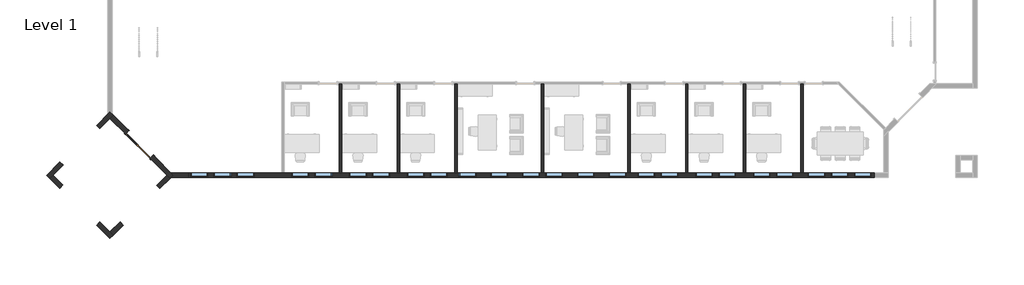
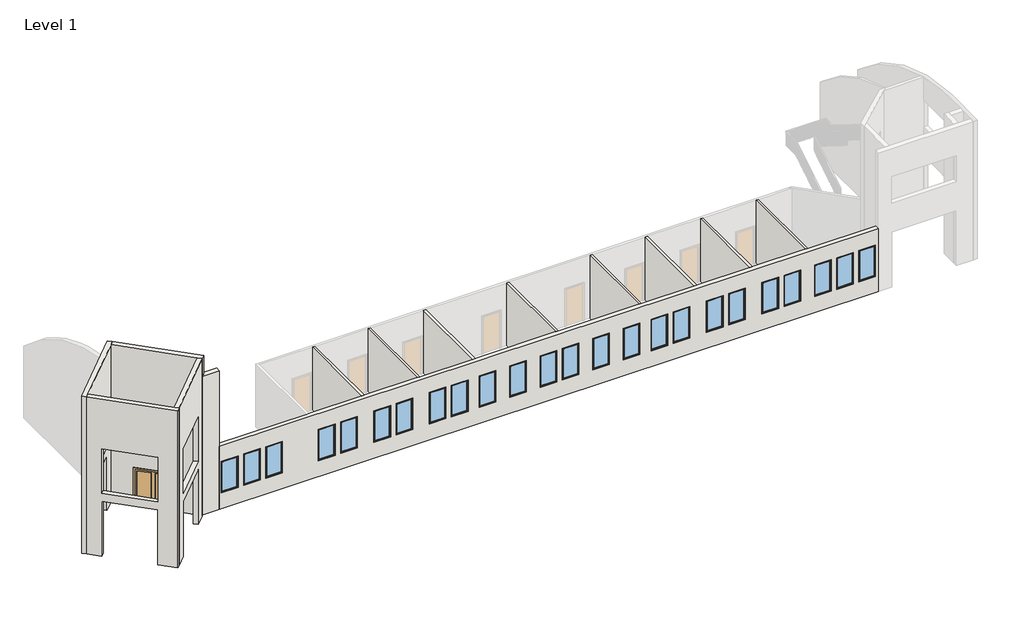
# One storey, part 1 of 4: 24 windows, 14 walls, 1 door.
"""IFC4 building model written with IfcOpenShell, lengths in millimetres."""

from ifc_helpers import new_model, si_unit, frame, origin, origin_with_axes, place, context, project, spatial, polyline, circle_curve, ellipse_curve, outline, extrude, faceted_brep, transform, mapped, element, save
from ifc_brep_helpers import plane_surface, cylinder_surface, advanced_brep
from components import door_a1a3006e, window_01d578b7

model = new_model("IFC4")

# Units and contexts
model_context = context("Model", 3, world=origin())
ifc_project = project(units=[si_unit("LENGTHUNIT", "METRE", prefix="MILLI")], contexts=[model_context])

# Site, building, storey
site = spatial("IfcSite", under=ifc_project)
building = spatial("IfcBuilding", under=site)
storey = spatial("IfcBuildingStorey", under=building, Name="Level 1", Elevation=0.0)

# Door
placement = place(None, origin())
door_shape = door_a1a3006e(model_context)
element("IfcDoor", 1, ObjectType="Double-Glass 1 : 72\" x 84\"", at=placement, inside=storey, context=model_context, shape_type="MappedRepresentation", body=[
    mapped(door_shape, transform((-10557.1119377, -829.2226028, 0.0), x_axis=(-0.707106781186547, 0.7071067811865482, 0.0), y_axis=(-0.7071067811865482, -0.707106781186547, 0.0), z_axis=(0.0, 0.0, 1.0))),
])

# Walls
element("IfcWall", 2, ObjectType="Exterior - EIFS on Mtl. Stud", at=placement, inside=storey, context=model_context, shape_type="Brep", body=[
    faceted_brep([(-15296.2210574, -2622.1272791, 0.0), (-15125.5961911, -2451.5024128, 0.0), (-14589.0258879, -1914.9321096, 0.0), (-14589.0258879, -1914.9321096, 3200.4), (-12653.7806938, 20.3130845, 3200.4), (-12653.7806938, 20.3130845, 0.0), (-12117.2103906, 556.8833877, 0.0), (-11946.5855243, 727.508254, 0.0), (-11946.5855243, 727.508254, 9144.0), (-12117.2103906, 556.8833877, 9144.0), (-15125.5961911, -2451.5024128, 9144.0), (-15296.2210574, -2622.1272791, 9144.0), (-12653.7806938, 20.3130845, 3657.6), (-14589.0258879, -1914.9321096, 3657.6), (-14589.0258879, -1914.9321096, 6248.4), (-12653.7806938, 20.3130845, 6248.4), (-15466.8459237, -2451.5024128, 0.0), (-15466.8459237, -2451.5024128, 9144.0), (-12117.2103906, 898.1331203, 9144.0), (-12117.2103906, 898.1331203, 7990.3191324), (-12117.2103906, 898.1331203, 0.0), (-12237.8603906, 777.4831203, 0.0), (-12824.4055601, 190.9379508, 0.0), (-12824.4055601, 190.9379508, 3200.4), (-14759.6507542, -1744.3072433, 3200.4), (-14759.6507542, -1744.3072433, 0.0), (-12824.4055601, 190.9379508, 3657.6), (-12824.4055601, 190.9379508, 6248.4), (-14759.6507542, -1744.3072433, 6248.4), (-14759.6507542, -1744.3072433, 3657.6), (-11996.5603906, 777.4831203, 0.0)], [[[0, 1, 2, 3, 4, 5, 6, 7, 8, 9, 10, 11], [12, 13, 14, 15]], [[16, 17, 18, 19, 20, 21, 22, 23, 24, 25], [26, 27, 28, 29]], [[2, 1, 0, 16, 25]], [[3, 2, 25, 24]], [[4, 3, 24, 23]], [[5, 4, 23, 22]], [[7, 6, 5, 22, 21, 20, 30]], [[11, 10, 9, 8, 18, 17]], [[13, 12, 26, 29]], [[14, 13, 29, 28]], [[15, 14, 28, 27]], [[12, 15, 27, 26]], [[7, 30, 20, 19, 18, 8]], [[0, 11, 17, 16]]]),
])
element("IfcWall", 3, ObjectType="Exterior - EIFS on Mtl. Stud", at=placement, inside=storey, context=model_context, shape_type="Brep", body=[
    faceted_brep([(-12117.2103906, 556.8833877, 0.0), (-11290.6866096, -269.6403933, 0.0), (-11290.6866096, -269.6403933, 2133.6), (-9997.5297281, -1562.7972747, 2133.6), (-9997.5297281, -1562.7972747, 0.0), (-9108.82459, -2451.5024128, 0.0), (-8938.1997237, -2622.1272791, 0.0), (-8938.1997237, -2622.1272791, 9144.0), (-9108.82459, -2451.5024128, 9144.0), (-12117.2103906, 556.8833877, 9144.0), (-11120.0617433, -99.015527, 2133.6), (-11120.0617433, -99.015527, 0.0), (-11946.5855243, 727.508254, 0.0), (-11946.5855243, 727.508254, 9144.0), (-8767.5748574, -2451.5024128, 9144.0), (-8767.5748574, -2451.5024128, 8054.7114462), (-8767.5748574, -2451.5024128, 0.0), (-8888.2248574, -2330.8524128, 0.0), (-9826.9048618, -1392.1724084, 0.0), (-9826.9048618, -1392.1724084, 2133.6), (-8888.2248574, -2572.1524128, 0.0)], [[[0, 1, 2, 3, 4, 5, 6, 7, 8, 9]], [[10, 11, 12, 13, 14, 15, 16, 17, 18, 19]], [[12, 11, 1, 0]], [[18, 17, 16, 20, 6, 5, 4]], [[9, 8, 7, 14, 13]], [[7, 6, 20, 16, 15, 14]], [[9, 13, 12, 0]], [[2, 1, 11, 10]], [[3, 2, 10, 19]], [[4, 3, 19, 18]]]),
])
element("IfcWall", 4, ObjectType="Exterior - EIFS on Mtl. Stud", at=placement, inside=storey, context=model_context, shape_type="Brep", body=[
    faceted_brep([(-11946.5855243, -5630.5130797, 0.0), (-12117.2103906, -5459.8882134, 0.0), (-12653.7806938, -4923.3179102, 0.0), (-12653.7806938, -4923.3179102, 3200.4), (-14598.0022531, -2979.0963509, 3200.4), (-14598.0022531, -2979.0963509, 0.0), (-15125.5961911, -2451.5024128, 0.0), (-15125.5961911, -2451.5024128, 9144.0), (-12117.2103906, -5459.8882134, 9144.0), (-11946.5855243, -5630.5130797, 9144.0), (-14598.0022531, -2979.0963509, 3657.6), (-12653.7806938, -4923.3179102, 3657.6), (-12653.7806938, -4923.3179102, 6248.4), (-14598.0022531, -2979.0963509, 6248.4), (-12117.2103906, -5801.137946, 0.0), (-12117.2103906, -5801.137946, 9144.0), (-15296.2210574, -2622.1272791, 9144.0), (-15296.2210574, -2622.1272791, 0.0), (-14768.6271194, -3149.7212172, 0.0), (-14768.6271194, -3149.7212172, 3200.4), (-12824.4055601, -5093.9427765, 3200.4), (-12824.4055601, -5093.9427765, 0.0), (-14768.6271194, -3149.7212172, 3657.6), (-14768.6271194, -3149.7212172, 6248.4), (-12824.4055601, -5093.9427765, 6248.4), (-12824.4055601, -5093.9427765, 3657.6)], [[[0, 1, 2, 3, 4, 5, 6, 7, 8, 9], [10, 11, 12, 13]], [[14, 15, 16, 17, 18, 19, 20, 21], [22, 23, 24, 25]], [[2, 1, 0, 14, 21]], [[3, 2, 21, 20]], [[4, 3, 20, 19]], [[5, 4, 19, 18]], [[6, 5, 18, 17]], [[9, 8, 7, 16, 15]], [[11, 10, 22, 25]], [[12, 11, 25, 24]], [[13, 12, 24, 23]], [[10, 13, 23, 22]], [[0, 9, 15, 14]], [[7, 6, 17, 16]]]),
])
element("IfcWall", 5, ObjectType="Exterior - EIFS on Mtl. Stud", at=placement, inside=storey, context=model_context, shape_type="SweptSolid", body=[
    extrude(outline(polyline([(120.6499999, 0.0), (879.475, 0.0), (879.475, -3200.4), (3616.325, -3200.4), (3616.325, 0.0), (4375.15, 0.0), (4375.15, -9144.0), (120.6499999, -9144.0), (120.6499999, 0.0)]), holes=[polyline([(3616.325, -3657.6), (879.475, -3657.6), (879.475, -6248.4), (3616.325, -6248.4), (3616.325, -3657.6)])]), frame((-12031.8979574, -5715.8255128, 0.0), z_axis=(-0.7071067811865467, 0.7071067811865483, 0.0), x_axis=(0.7071067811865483, 0.7071067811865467, 0.0)), (0.0, 0.0, 1.0), 241.3),
])
element("IfcWall", 6, ObjectType="Exterior - EIFS on Mtl. Stud", at=placement, inside=storey, context=model_context, shape_type="AdvancedBrep", body=[
    advanced_brep(
    [(-8888.2248574, -2330.8524128, 8066.5094937), (-7974.408315, -2330.8524128, 8066.5094937), (-7974.408315, -2330.8524128, 7315.2), (-7974.408315, -2330.8524128, 3657.6), (-7974.408315, -2330.8524128, 0.0), (-8888.2248574, -2330.8524128, 0.0), (-8888.2248574, -2572.1524128, 8041.8474028), (-8888.2248574, -2572.1524128, 0.0), (-7974.408315, -2572.1524128, 0.0), (-7974.408315, -2572.1524128, 3657.6), (-7974.408315, -2572.1524128, 7315.2), (-7974.408315, -2572.1524128, 8041.8474028), (-8767.5748574, -2451.5024128, 0.0), (-8767.5748574, -2451.5024128, 8054.7114462)],
    [
        (0, 1),
        (1, 2),
        (2, 3),
        (3, 4),
        (4, 5),
        (5, 0),
        (6, 7),
        (7, 8),
        (8, 9),
        (9, 10),
        (10, 11),
        (11, 6),
        (4, 8),
        (7, 12),
        (12, 5),
        (1, 11, circle_curve(frame((-7974.408315, -1041.3166946, -5743.4275557), z_axis=(1.0, 0.0, 0.0), x_axis=(0.0, -1.0, 0.0)), 13870.0131102)),
        (12, 13),
        (13, 0, ellipse_curve(frame((-10177.7605757, -1041.3166946, -5743.4275557), z_axis=(-0.7071067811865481, -0.7071067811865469, 0.0), x_axis=(0.7071067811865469, -0.707106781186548, 0.0)), 19615.1606508, 13870.0131102)),
        (6, 13, ellipse_curve(frame((-7357.3891392, -1041.3166946, -5743.4275557), z_axis=(-0.7071067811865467, 0.7071067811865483, 0.0), x_axis=(0.7071067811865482, 0.7071067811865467, 0.0)), 19615.1606508, 13870.0131102)),
    ],
    [
        plane_surface(frame((-8938.1997237, -2330.8524128, 9144.0), z_axis=(0.0, 1.0, 0.0), x_axis=(1.0, 0.0, 0.0))),
        plane_surface(frame((-8938.1997237, -2572.1524128, 9144.0), z_axis=(0.0, -1.0, 0.0), x_axis=(-1.0, 0.0, 0.0))),
        plane_surface(frame((-7974.408315, -2330.8524128, 0.0), z_axis=(0.0, 0.0, -1.0), x_axis=(0.0, -1.0, 0.0))),
        plane_surface(frame((-7974.408315, -2330.8524128, 9144.0), z_axis=(1.0, 0.0, 0.0), x_axis=(0.0, -1.0, 0.0))),
        plane_surface(frame((-10399.7364074, -819.3408628, -457.2), z_axis=(-0.7071067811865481, -0.7071067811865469, 0.0), x_axis=(0.7071067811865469, -0.7071067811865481, 0.0))),
        plane_surface(frame((-10399.7364074, -4083.6639628, -457.2), z_axis=(-0.7071067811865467, 0.7071067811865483, 0.0), x_axis=(-0.7071067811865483, -0.7071067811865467, 0.0))),
        cylinder_surface(frame((34821.9896094, -1041.3166946, -5743.4275557), z_axis=(1.0, 0.0, 0.0), x_axis=(0.0, -1.0, 0.0)), 13870.0131102),
    ],
    [
        (0, [[1, 2, 3, 4, 5, 6]]),
        (1, [[7, 8, 9, 10, 11, 12]]),
        (2, [[-5, 13, -8, 14, 15]]),
        (3, [[16, -11, -10, -9, -13, -4, -3, -2]]),
        (4, [[-6, -15, 17, 18]]),
        (5, [[-14, -7, 19, -17]]),
        (6, [[-1, -18, -19, -12, -16]]),
    ],
),
])
element("IfcWall", 7, ObjectType="Exterior - EIFS on Mtl. Stud", at=placement, inside=storey, context=model_context, shape_type="Brep", body=[
    faceted_brep([(28268.7896094, -2330.8524128, 0.0), (24520.7021094, -2330.8524128, 0.0), (24396.8771094, -2330.8524128, 0.0), (21472.7021094, -2330.8524128, 0.0), (21348.8771094, -2330.8524128, 0.0), (18424.7021094, -2330.8524128, 0.0), (18300.8771094, -2330.8524128, 0.0), (15376.7021094, -2330.8524128, 0.0), (15252.8771094, -2330.8524128, 0.0), (10804.7021094, -2330.8524128, 0.0), (10680.8771094, -2330.8524128, 0.0), (6232.7021094, -2330.8524128, 0.0), (6108.8771094, -2330.8524128, 0.0), (3184.7021094, -2330.8524128, 0.0), (3060.8771094, -2330.8524128, 0.0), (136.7021094, -2330.8524128, 0.0), (12.8771094, -2330.8524128, 0.0), (-2911.2978906, -2330.8524128, 0.0), (-3035.1228906, -2330.8524128, 0.0), (-7974.408315, -2330.8524128, 0.0), (-7974.408315, -2330.8524128, 3657.6), (-3035.1228906, -2330.8524128, 3657.6), (-2911.2978906, -2330.8524128, 3657.6), (12.8771094, -2330.8524128, 3657.6), (136.7021094, -2330.8524128, 3657.6), (3060.8771094, -2330.8524128, 3657.6), (3184.7021094, -2330.8524128, 3657.6), (6108.8771094, -2330.8524128, 3657.6), (6232.7021094, -2330.8524128, 3657.6), (10680.8771094, -2330.8524128, 3657.6), (10804.7021094, -2330.8524128, 3657.6), (15252.8771094, -2330.8524128, 3657.6), (15376.7021094, -2330.8524128, 3657.6), (18300.8771094, -2330.8524128, 3657.6), (18424.7021094, -2330.8524128, 3657.6), (21348.8771094, -2330.8524128, 3657.6), (21472.7021094, -2330.8524128, 3657.6), (24396.8771094, -2330.8524128, 3657.6), (24520.7021094, -2330.8524128, 3657.6), (28268.7896094, -2330.8524128, 3657.6), (24763.5896094, -2330.8524128, 2743.2), (24763.5896094, -2330.8524128, 914.4), (25677.9896094, -2330.8524128, 914.4), (25677.9896094, -2330.8524128, 2743.2), (27201.9896094, -2330.8524128, 2743.2), (27201.9896094, -2330.8524128, 914.4), (28116.3896094, -2330.8524128, 914.4), (28116.3896094, -2330.8524128, 2743.2), (-7850.0103906, -2330.8524128, 2743.2), (-7850.0103906, -2330.8524128, 914.4), (-6935.6103906, -2330.8524128, 914.4), (-6935.6103906, -2330.8524128, 2743.2), (-6630.8103906, -2330.8524128, 2743.2), (-6630.8103906, -2330.8524128, 914.4), (-5716.4103906, -2330.8524128, 914.4), (-5716.4103906, -2330.8524128, 2743.2), (-5411.6103906, -2330.8524128, 2743.2), (-5411.6103906, -2330.8524128, 914.4), (-4497.2103906, -2330.8524128, 914.4), (-4497.2103906, -2330.8524128, 2743.2), (-2516.0103906, -2330.8524128, 2743.2), (-2516.0103906, -2330.8524128, 914.4), (-1601.6103906, -2330.8524128, 914.4), (-1601.6103906, -2330.8524128, 2743.2), (25982.7896094, -2330.8524128, 2743.2), (25982.7896094, -2330.8524128, 914.4), (26897.1896094, -2330.8524128, 914.4), (26897.1896094, -2330.8524128, 2743.2), (-1296.8103906, -2330.8524128, 2743.2), (-1296.8103906, -2330.8524128, 914.4), (-382.4103906, -2330.8524128, 914.4), (-382.4103906, -2330.8524128, 2743.2), (6323.1896094, -2330.8524128, 2743.2), (6323.1896094, -2330.8524128, 914.4), (7237.5896094, -2330.8524128, 914.4), (7237.5896094, -2330.8524128, 2743.2), (7999.5896094, -2330.8524128, 2743.2), (7999.5896094, -2330.8524128, 914.4), (8913.9896094, -2330.8524128, 914.4), (8913.9896094, -2330.8524128, 2743.2), (9675.9896094, -2330.8524128, 2743.2), (9675.9896094, -2330.8524128, 914.4), (10590.3896094, -2330.8524128, 914.4), (10590.3896094, -2330.8524128, 2743.2), (10895.1896094, -2330.8524128, 2743.2), (10895.1896094, -2330.8524128, 914.4), (11809.5896094, -2330.8524128, 914.4), (11809.5896094, -2330.8524128, 2743.2), (12571.5896094, -2330.8524128, 2743.2), (12571.5896094, -2330.8524128, 914.4), (13485.9896094, -2330.8524128, 914.4), (13485.9896094, -2330.8524128, 2743.2), (14247.9896094, -2330.8524128, 2743.2), (14247.9896094, -2330.8524128, 914.4), (15162.3896094, -2330.8524128, 914.4), (15162.3896094, -2330.8524128, 2743.2), (531.9896094, -2330.8524128, 2743.2), (531.9896094, -2330.8524128, 914.4), (1446.3896094, -2330.8524128, 914.4), (1446.3896094, -2330.8524128, 2743.2), (1751.1896094, -2330.8524128, 2743.2), (1751.1896094, -2330.8524128, 914.4), (2665.5896094, -2330.8524128, 914.4), (2665.5896094, -2330.8524128, 2743.2), (3579.9896094, -2330.8524128, 2743.2), (3579.9896094, -2330.8524128, 914.4), (4494.3896094, -2330.8524128, 914.4), (4494.3896094, -2330.8524128, 2743.2), (4799.1896094, -2330.8524128, 2743.2), (4799.1896094, -2330.8524128, 914.4), (5713.5896094, -2330.8524128, 914.4), (5713.5896094, -2330.8524128, 2743.2), (15771.9896094, -2330.8524128, 2743.2), (15771.9896094, -2330.8524128, 914.4), (16686.3896094, -2330.8524128, 914.4), (16686.3896094, -2330.8524128, 2743.2), (16991.1896094, -2330.8524128, 2743.2), (16991.1896094, -2330.8524128, 914.4), (17905.5896094, -2330.8524128, 914.4), (17905.5896094, -2330.8524128, 2743.2), (18819.9896094, -2330.8524128, 2743.2), (18819.9896094, -2330.8524128, 914.4), (19734.3896094, -2330.8524128, 914.4), (19734.3896094, -2330.8524128, 2743.2), (20039.1896094, -2330.8524128, 2743.2), (20039.1896094, -2330.8524128, 914.4), (20953.5896094, -2330.8524128, 914.4), (20953.5896094, -2330.8524128, 2743.2), (21867.9896094, -2330.8524128, 2743.2), (21867.9896094, -2330.8524128, 914.4), (22782.3896094, -2330.8524128, 914.4), (22782.3896094, -2330.8524128, 2743.2), (23087.1896094, -2330.8524128, 2743.2), (23087.1896094, -2330.8524128, 914.4), (24001.5896094, -2330.8524128, 914.4), (24001.5896094, -2330.8524128, 2743.2), (-7974.408315, -2572.1524128, 0.0), (28268.7896094, -2572.1524128, 0.0), (28268.7896094, -2572.1524128, 3657.6), (-7974.408315, -2572.1524128, 3657.6), (24763.5896094, -2572.1524128, 914.4), (24763.5896094, -2572.1524128, 2743.2), (25677.9896094, -2572.1524128, 2743.2), (25677.9896094, -2572.1524128, 914.4), (27201.9896094, -2572.1524128, 914.4), (27201.9896094, -2572.1524128, 2743.2), (28116.3896094, -2572.1524128, 2743.2), (28116.3896094, -2572.1524128, 914.4), (-7850.0103906, -2572.1524128, 914.4), (-7850.0103906, -2572.1524128, 2743.2), (-6935.6103906, -2572.1524128, 2743.2), (-6935.6103906, -2572.1524128, 914.4), (-6630.8103906, -2572.1524128, 914.4), (-6630.8103906, -2572.1524128, 2743.2), (-5716.4103906, -2572.1524128, 2743.2), (-5716.4103906, -2572.1524128, 914.4), (-5411.6103906, -2572.1524128, 914.4), (-5411.6103906, -2572.1524128, 2743.2), (-4497.2103906, -2572.1524128, 2743.2), (-4497.2103906, -2572.1524128, 914.4), (-2516.0103906, -2572.1524128, 914.4), (-2516.0103906, -2572.1524128, 2743.2), (-1601.6103906, -2572.1524128, 2743.2), (-1601.6103906, -2572.1524128, 914.4), (25982.7896094, -2572.1524128, 914.4), (25982.7896094, -2572.1524128, 2743.2), (26897.1896094, -2572.1524128, 2743.2), (26897.1896094, -2572.1524128, 914.4), (-1296.8103906, -2572.1524128, 914.4), (-1296.8103906, -2572.1524128, 2743.2), (-382.4103906, -2572.1524128, 2743.2), (-382.4103906, -2572.1524128, 914.4), (6323.1896094, -2572.1524128, 2743.2), (7237.5896094, -2572.1524128, 2743.2), (7237.5896094, -2572.1524128, 914.4), (6323.1896094, -2572.1524128, 914.4), (7999.5896094, -2572.1524128, 2743.2), (8913.9896094, -2572.1524128, 2743.2), (8913.9896094, -2572.1524128, 914.4), (7999.5896094, -2572.1524128, 914.4), (9675.9896094, -2572.1524128, 2743.2), (10590.3896094, -2572.1524128, 2743.2), (10590.3896094, -2572.1524128, 914.4), (9675.9896094, -2572.1524128, 914.4), (10895.1896094, -2572.1524128, 2743.2), (11809.5896094, -2572.1524128, 2743.2), (11809.5896094, -2572.1524128, 914.4), (10895.1896094, -2572.1524128, 914.4), (12571.5896094, -2572.1524128, 2743.2), (13485.9896094, -2572.1524128, 2743.2), (13485.9896094, -2572.1524128, 914.4), (12571.5896094, -2572.1524128, 914.4), (14247.9896094, -2572.1524128, 2743.2), (15162.3896094, -2572.1524128, 2743.2), (15162.3896094, -2572.1524128, 914.4), (14247.9896094, -2572.1524128, 914.4), (531.9896094, -2572.1524128, 2743.2), (1446.3896094, -2572.1524128, 2743.2), (1446.3896094, -2572.1524128, 914.4), (531.9896094, -2572.1524128, 914.4), (1751.1896094, -2572.1524128, 2743.2), (2665.5896094, -2572.1524128, 2743.2), (2665.5896094, -2572.1524128, 914.4), (1751.1896094, -2572.1524128, 914.4), (3579.9896094, -2572.1524128, 2743.2), (4494.3896094, -2572.1524128, 2743.2), (4494.3896094, -2572.1524128, 914.4), (3579.9896094, -2572.1524128, 914.4), (4799.1896094, -2572.1524128, 2743.2), (5713.5896094, -2572.1524128, 2743.2), (5713.5896094, -2572.1524128, 914.4), (4799.1896094, -2572.1524128, 914.4), (15771.9896094, -2572.1524128, 2743.2), (16686.3896094, -2572.1524128, 2743.2), (16686.3896094, -2572.1524128, 914.4), (15771.9896094, -2572.1524128, 914.4), (16991.1896094, -2572.1524128, 2743.2), (17905.5896094, -2572.1524128, 2743.2), (17905.5896094, -2572.1524128, 914.4), (16991.1896094, -2572.1524128, 914.4), (18819.9896094, -2572.1524128, 2743.2), (19734.3896094, -2572.1524128, 2743.2), (19734.3896094, -2572.1524128, 914.4), (18819.9896094, -2572.1524128, 914.4), (20039.1896094, -2572.1524128, 2743.2), (20953.5896094, -2572.1524128, 2743.2), (20953.5896094, -2572.1524128, 914.4), (20039.1896094, -2572.1524128, 914.4), (21867.9896094, -2572.1524128, 2743.2), (22782.3896094, -2572.1524128, 2743.2), (22782.3896094, -2572.1524128, 914.4), (21867.9896094, -2572.1524128, 914.4), (23087.1896094, -2572.1524128, 2743.2), (24001.5896094, -2572.1524128, 2743.2), (24001.5896094, -2572.1524128, 914.4), (23087.1896094, -2572.1524128, 914.4)], [[[0, 1, 2, 3, 4, 5, 6, 7, 8, 9, 10, 11, 12, 13, 14, 15, 16, 17, 18, 19, 20, 21, 22, 23, 24, 25, 26, 27, 28, 29, 30, 31, 32, 33, 34, 35, 36, 37, 38, 39], [40, 41, 42, 43], [44, 45, 46, 47], [48, 49, 50, 51], [52, 53, 54, 55], [56, 57, 58, 59], [60, 61, 62, 63], [64, 65, 66, 67], [68, 69, 70, 71], [72, 73, 74, 75], [76, 77, 78, 79], [80, 81, 82, 83], [84, 85, 86, 87], [88, 89, 90, 91], [92, 93, 94, 95], [96, 97, 98, 99], [100, 101, 102, 103], [104, 105, 106, 107], [108, 109, 110, 111], [112, 113, 114, 115], [116, 117, 118, 119], [120, 121, 122, 123], [124, 125, 126, 127], [128, 129, 130, 131], [132, 133, 134, 135]], [[136, 137, 138, 139], [140, 141, 142, 143], [144, 145, 146, 147], [148, 149, 150, 151], [152, 153, 154, 155], [156, 157, 158, 159], [160, 161, 162, 163], [164, 165, 166, 167], [168, 169, 170, 171], [172, 173, 174, 175], [176, 177, 178, 179], [180, 181, 182, 183], [184, 185, 186, 187], [188, 189, 190, 191], [192, 193, 194, 195], [196, 197, 198, 199], [200, 201, 202, 203], [204, 205, 206, 207], [208, 209, 210, 211], [212, 213, 214, 215], [216, 217, 218, 219], [220, 221, 222, 223], [224, 225, 226, 227], [228, 229, 230, 231], [232, 233, 234, 235]], [[19, 18, 17, 16, 15, 14, 13, 12, 11, 10, 9, 8, 7, 6, 5, 4, 3, 2, 1, 0, 137, 136]], [[20, 19, 136, 139]], [[39, 38, 37, 36, 35, 34, 33, 32, 31, 30, 29, 28, 27, 26, 25, 24, 23, 22, 21, 20, 139, 138]], [[137, 0, 39, 138]], [[41, 40, 141, 140]], [[42, 41, 140, 143]], [[43, 42, 143, 142]], [[40, 43, 142, 141]], [[45, 44, 145, 144]], [[46, 45, 144, 147]], [[47, 46, 147, 146]], [[44, 47, 146, 145]], [[49, 48, 149, 148]], [[50, 49, 148, 151]], [[51, 50, 151, 150]], [[48, 51, 150, 149]], [[53, 52, 153, 152]], [[54, 53, 152, 155]], [[55, 54, 155, 154]], [[52, 55, 154, 153]], [[57, 56, 157, 156]], [[58, 57, 156, 159]], [[59, 58, 159, 158]], [[56, 59, 158, 157]], [[61, 60, 161, 160]], [[62, 61, 160, 163]], [[63, 62, 163, 162]], [[60, 63, 162, 161]], [[65, 64, 165, 164]], [[66, 65, 164, 167]], [[67, 66, 167, 166]], [[64, 67, 166, 165]], [[68, 169, 168, 69]], [[69, 168, 171, 70]], [[70, 171, 170, 71]], [[169, 68, 71, 170]], [[73, 72, 172, 175]], [[74, 73, 175, 174]], [[75, 74, 174, 173]], [[72, 75, 173, 172]], [[77, 76, 176, 179]], [[78, 77, 179, 178]], [[79, 78, 178, 177]], [[76, 79, 177, 176]], [[81, 80, 180, 183]], [[82, 81, 183, 182]], [[83, 82, 182, 181]], [[80, 83, 181, 180]], [[85, 84, 184, 187]], [[86, 85, 187, 186]], [[87, 86, 186, 185]], [[84, 87, 185, 184]], [[89, 88, 188, 191]], [[90, 89, 191, 190]], [[91, 90, 190, 189]], [[88, 91, 189, 188]], [[93, 92, 192, 195]], [[94, 93, 195, 194]], [[95, 94, 194, 193]], [[92, 95, 193, 192]], [[97, 96, 196, 199]], [[98, 97, 199, 198]], [[99, 98, 198, 197]], [[96, 99, 197, 196]], [[101, 100, 200, 203]], [[102, 101, 203, 202]], [[103, 102, 202, 201]], [[100, 103, 201, 200]], [[105, 104, 204, 207]], [[106, 105, 207, 206]], [[107, 106, 206, 205]], [[104, 107, 205, 204]], [[109, 108, 208, 211]], [[110, 109, 211, 210]], [[111, 110, 210, 209]], [[108, 111, 209, 208]], [[113, 112, 212, 215]], [[114, 113, 215, 214]], [[115, 114, 214, 213]], [[112, 115, 213, 212]], [[117, 116, 216, 219]], [[118, 117, 219, 218]], [[119, 118, 218, 217]], [[116, 119, 217, 216]], [[121, 120, 220, 223]], [[122, 121, 223, 222]], [[123, 122, 222, 221]], [[120, 123, 221, 220]], [[125, 124, 224, 227]], [[126, 125, 227, 226]], [[127, 126, 226, 225]], [[124, 127, 225, 224]], [[129, 128, 228, 231]], [[130, 129, 231, 230]], [[131, 130, 230, 229]], [[128, 131, 229, 228]], [[133, 132, 232, 235]], [[134, 133, 235, 234]], [[135, 134, 234, 233]], [[132, 135, 233, 232]]]),
])
element("IfcWall", 8, ObjectType="Interior - 4 7/8\" Partition (1-hr)", at=placement, inside=storey, context=model_context, shape_type="SweptSolid", body=[
    extrude(outline(polyline([(24520.7021094, 2363.3850872), (24520.7021094, -2330.8524128), (24396.8771094, -2330.8524128), (24396.8771094, 2363.3850872), (24520.7021094, 2363.3850872)])), origin_with_axes(), (0.0, 0.0, 1.0), 3657.6),
])
element("IfcWall", 9, ObjectType="Interior - 4 7/8\" Partition (1-hr)", at=placement, inside=storey, context=model_context, shape_type="SweptSolid", body=[
    extrude(outline(polyline([(136.7021094, 2363.3850872), (136.7021094, -2330.8524128), (12.8771094, -2330.8524128), (12.8771094, 2363.3850872), (136.7021094, 2363.3850872)])), origin_with_axes(), (0.0, 0.0, 1.0), 3657.6),
])
element("IfcWall", 10, ObjectType="Interior - 4 7/8\" Partition (1-hr)", at=placement, inside=storey, context=model_context, shape_type="SweptSolid", body=[
    extrude(outline(polyline([(3184.7021094, 2363.3850872), (3184.7021094, -2330.8524128), (3060.8771094, -2330.8524128), (3060.8771094, 2363.3850872), (3184.7021094, 2363.3850872)])), origin_with_axes(), (0.0, 0.0, 1.0), 3657.6),
])
element("IfcWall", 11, ObjectType="Interior - 4 7/8\" Partition (1-hr)", at=placement, inside=storey, context=model_context, shape_type="SweptSolid", body=[
    extrude(outline(polyline([(18424.7021094, 2363.3850872), (18424.7021094, -2330.8524128), (18300.8771094, -2330.8524128), (18300.8771094, 2363.3850872), (18424.7021094, 2363.3850872)])), origin_with_axes(), (0.0, 0.0, 1.0), 3657.6),
])
element("IfcWall", 12, ObjectType="Interior - 4 7/8\" Partition (1-hr)", at=placement, inside=storey, context=model_context, shape_type="SweptSolid", body=[
    extrude(outline(polyline([(21472.7021094, 2363.3850872), (21472.7021094, -2330.8524128), (21348.8771094, -2330.8524128), (21348.8771094, 2363.3850872), (21472.7021094, 2363.3850872)])), origin_with_axes(), (0.0, 0.0, 1.0), 3657.6),
])
element("IfcWall", 13, ObjectType="Interior - 4 7/8\" Partition (1-hr)", at=placement, inside=storey, context=model_context, shape_type="SweptSolid", body=[
    extrude(outline(polyline([(10804.7021094, 2363.3850872), (10804.7021094, -2330.8524128), (10680.8771094, -2330.8524128), (10680.8771094, 2363.3850872), (10804.7021094, 2363.3850872)])), origin_with_axes(), (0.0, 0.0, 1.0), 3657.6),
])
element("IfcWall", 14, ObjectType="Interior - 4 7/8\" Partition (1-hr)", at=placement, inside=storey, context=model_context, shape_type="SweptSolid", body=[
    extrude(outline(polyline([(6232.7021094, 2363.3850872), (6232.7021094, -2330.8524128), (6108.8771094, -2330.8524128), (6108.8771094, 2363.3850872), (6232.7021094, 2363.3850872)])), origin_with_axes(), (0.0, 0.0, 1.0), 3657.6),
])
element("IfcWall", 15, ObjectType="Interior - 4 7/8\" Partition (1-hr)", at=placement, inside=storey, context=model_context, shape_type="SweptSolid", body=[
    extrude(outline(polyline([(15376.7021094, 2363.3850872), (15376.7021094, -2330.8524128), (15252.8771094, -2330.8524128), (15252.8771094, 2363.3850872), (15376.7021094, 2363.3850872)])), origin_with_axes(), (0.0, 0.0, 1.0), 3657.6),
])

# Windows
window_shape = window_01d578b7(model_context)
element("IfcWindow", 16, ObjectType="Fixed : 36\" x 72\"", at=placement, inside=storey, context=model_context, shape_type="MappedRepresentation", body=[
    mapped(window_shape, transform((25182.6896094, -2451.5024128, 0.0), x_axis=(-1.0, 0.0, 0.0), y_axis=(0.0, -1.0, 0.0), z_axis=(0.0, 0.0, 1.0))),
])
element("IfcWindow", 17, ObjectType="Fixed : 36\" x 72\"", at=placement, inside=storey, context=model_context, shape_type="MappedRepresentation", body=[
    mapped(window_shape, transform((27621.0896094, -2451.5024128, 0.0), x_axis=(-1.0, 0.0, 0.0), y_axis=(0.0, -1.0, 0.0), z_axis=(0.0, 0.0, 1.0))),
])
element("IfcWindow", 18, ObjectType="Fixed : 36\" x 72\"", at=placement, inside=storey, context=model_context, shape_type="MappedRepresentation", body=[
    mapped(window_shape, transform((-7430.9103906, -2451.5024128, 0.0), x_axis=(-1.0, 0.0, 0.0), y_axis=(0.0, -1.0, 0.0), z_axis=(0.0, 0.0, 1.0))),
])
element("IfcWindow", 19, ObjectType="Fixed : 36\" x 72\"", at=placement, inside=storey, context=model_context, shape_type="MappedRepresentation", body=[
    mapped(window_shape, transform((-6211.7103906, -2451.5024128, 0.0), x_axis=(-1.0, 0.0, 0.0), y_axis=(0.0, -1.0, 0.0), z_axis=(0.0, 0.0, 1.0))),
])
element("IfcWindow", 20, ObjectType="Fixed : 36\" x 72\"", at=placement, inside=storey, context=model_context, shape_type="MappedRepresentation", body=[
    mapped(window_shape, transform((-4992.5103906, -2451.5024128, 0.0), x_axis=(-1.0, 0.0, 0.0), y_axis=(0.0, -1.0, 0.0), z_axis=(0.0, 0.0, 1.0))),
])
element("IfcWindow", 21, ObjectType="Fixed : 36\" x 72\"", at=placement, inside=storey, context=model_context, shape_type="MappedRepresentation", body=[
    mapped(window_shape, transform((-2096.9103906, -2451.5024128, 0.0), x_axis=(-1.0, 0.0, 0.0), y_axis=(0.0, -1.0, 0.0), z_axis=(0.0, 0.0, 1.0))),
])
element("IfcWindow", 22, ObjectType="Fixed : 36\" x 72\"", at=placement, inside=storey, context=model_context, shape_type="MappedRepresentation", body=[
    mapped(window_shape, transform((26401.8896094, -2451.5024128, 0.0), x_axis=(-1.0, 0.0, 0.0), y_axis=(0.0, -1.0, 0.0), z_axis=(0.0, 0.0, 1.0))),
])
element("IfcWindow", 23, ObjectType="Fixed : 36\" x 72\"", at=placement, inside=storey, context=model_context, shape_type="MappedRepresentation", body=[
    mapped(window_shape, transform((-877.7103906, -2451.5024128, 0.0), x_axis=(-1.0, 0.0, 0.0), y_axis=(0.0, -1.0, 0.0), z_axis=(0.0, 0.0, 1.0))),
])
element("IfcWindow", 24, ObjectType="Fixed : 36\" x 72\"", at=placement, inside=storey, context=model_context, shape_type="MappedRepresentation", body=[
    mapped(window_shape, transform((951.0896094, -2451.5024128, 0.0), x_axis=(-1.0, 0.0, 0.0), y_axis=(0.0, -1.0, 0.0), z_axis=(0.0, 0.0, 1.0))),
])
element("IfcWindow", 25, ObjectType="Fixed : 36\" x 72\"", at=placement, inside=storey, context=model_context, shape_type="MappedRepresentation", body=[
    mapped(window_shape, transform((2170.2896094, -2451.5024128, 0.0), x_axis=(-1.0, 0.0, 0.0), y_axis=(0.0, -1.0, 0.0), z_axis=(0.0, 0.0, 1.0))),
])
element("IfcWindow", 26, ObjectType="Fixed : 36\" x 72\"", at=placement, inside=storey, context=model_context, shape_type="MappedRepresentation", body=[
    mapped(window_shape, transform((16191.0896094, -2451.5024128, 0.0), x_axis=(-1.0, 0.0, 0.0), y_axis=(0.0, -1.0, 0.0), z_axis=(0.0, 0.0, 1.0))),
])
element("IfcWindow", 27, ObjectType="Fixed : 36\" x 72\"", at=placement, inside=storey, context=model_context, shape_type="MappedRepresentation", body=[
    mapped(window_shape, transform((17410.2896094, -2451.5024128, 0.0), x_axis=(-1.0, 0.0, 0.0), y_axis=(0.0, -1.0, 0.0), z_axis=(0.0, 0.0, 1.0))),
])
element("IfcWindow", 28, ObjectType="Fixed : 36\" x 72\"", at=placement, inside=storey, context=model_context, shape_type="MappedRepresentation", body=[
    mapped(window_shape, transform((19239.0896094, -2451.5024128, 0.0), x_axis=(-1.0, 0.0, 0.0), y_axis=(0.0, -1.0, 0.0), z_axis=(0.0, 0.0, 1.0))),
])
element("IfcWindow", 29, ObjectType="Fixed : 36\" x 72\"", at=placement, inside=storey, context=model_context, shape_type="MappedRepresentation", body=[
    mapped(window_shape, transform((20458.2896094, -2451.5024128, 0.0), x_axis=(-1.0, 0.0, 0.0), y_axis=(0.0, -1.0, 0.0), z_axis=(0.0, 0.0, 1.0))),
])
element("IfcWindow", 30, ObjectType="Fixed : 36\" x 72\"", at=placement, inside=storey, context=model_context, shape_type="MappedRepresentation", body=[
    mapped(window_shape, transform((22287.0896094, -2451.5024128, 0.0), x_axis=(-1.0, 0.0, 0.0), y_axis=(0.0, -1.0, 0.0), z_axis=(0.0, 0.0, 1.0))),
])
element("IfcWindow", 31, ObjectType="Fixed : 36\" x 72\"", at=placement, inside=storey, context=model_context, shape_type="MappedRepresentation", body=[
    mapped(window_shape, transform((23506.2896094, -2451.5024128, 0.0), x_axis=(-1.0, 0.0, 0.0), y_axis=(0.0, -1.0, 0.0), z_axis=(0.0, 0.0, 1.0))),
])
element("IfcWindow", 32, ObjectType="Fixed : 36\" x 72\"", at=placement, inside=storey, context=model_context, shape_type="MappedRepresentation", body=[
    mapped(window_shape, transform((6742.2896094, -2451.5024128, 0.0), x_axis=(-1.0, 0.0, 0.0), y_axis=(0.0, -1.0, 0.0), z_axis=(0.0, 0.0, 1.0))),
])
element("IfcWindow", 33, ObjectType="Fixed : 36\" x 72\"", at=placement, inside=storey, context=model_context, shape_type="MappedRepresentation", body=[
    mapped(window_shape, transform((8418.6896094, -2451.5024128, 0.0), x_axis=(-1.0, 0.0, 0.0), y_axis=(0.0, -1.0, 0.0), z_axis=(0.0, 0.0, 1.0))),
])
element("IfcWindow", 34, ObjectType="Fixed : 36\" x 72\"", at=placement, inside=storey, context=model_context, shape_type="MappedRepresentation", body=[
    mapped(window_shape, transform((10095.0896094, -2451.5024128, 0.0), x_axis=(-1.0, 0.0, 0.0), y_axis=(0.0, -1.0, 0.0), z_axis=(0.0, 0.0, 1.0))),
])
element("IfcWindow", 35, ObjectType="Fixed : 36\" x 72\"", at=placement, inside=storey, context=model_context, shape_type="MappedRepresentation", body=[
    mapped(window_shape, transform((3999.0896094, -2451.5024128, 0.0), x_axis=(-1.0, 0.0, 0.0), y_axis=(0.0, -1.0, 0.0), z_axis=(0.0, 0.0, 1.0))),
])
element("IfcWindow", 36, ObjectType="Fixed : 36\" x 72\"", at=placement, inside=storey, context=model_context, shape_type="MappedRepresentation", body=[
    mapped(window_shape, transform((5218.2896094, -2451.5024128, 0.0), x_axis=(-1.0, 0.0, 0.0), y_axis=(0.0, -1.0, 0.0), z_axis=(0.0, 0.0, 1.0))),
])
element("IfcWindow", 37, ObjectType="Fixed : 36\" x 72\"", at=placement, inside=storey, context=model_context, shape_type="MappedRepresentation", body=[
    mapped(window_shape, transform((11314.2896094, -2451.5024128, 0.0), x_axis=(-1.0, 0.0, 0.0), y_axis=(0.0, -1.0, 0.0), z_axis=(0.0, 0.0, 1.0))),
])
element("IfcWindow", 38, ObjectType="Fixed : 36\" x 72\"", at=placement, inside=storey, context=model_context, shape_type="MappedRepresentation", body=[
    mapped(window_shape, transform((12990.6896094, -2451.5024128, 0.0), x_axis=(-1.0, 0.0, 0.0), y_axis=(0.0, -1.0, 0.0), z_axis=(0.0, 0.0, 1.0))),
])
element("IfcWindow", 39, ObjectType="Fixed : 36\" x 72\"", at=placement, inside=storey, context=model_context, shape_type="MappedRepresentation", body=[
    mapped(window_shape, transform((14667.0896094, -2451.5024128, 0.0), x_axis=(-1.0, 0.0, 0.0), y_axis=(0.0, -1.0, 0.0), z_axis=(0.0, 0.0, 1.0))),
])

save(model, "model.ifc")
